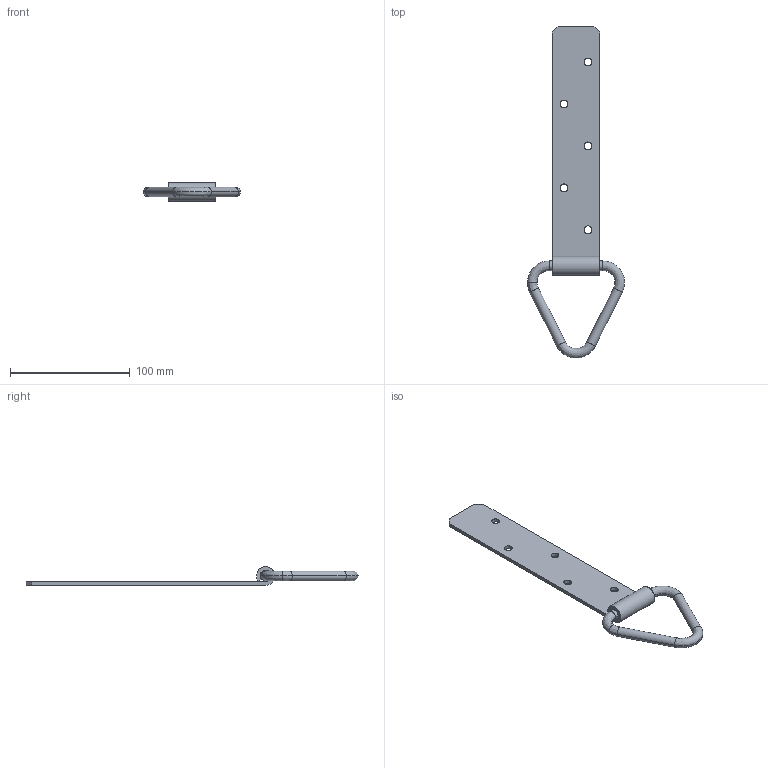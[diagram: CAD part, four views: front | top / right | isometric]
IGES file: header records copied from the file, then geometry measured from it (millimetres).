
Start section: SolidWorks IGES file using analytic representation for surfaces
Global section: file name: C:\Users\mcharife\Desktop\29882 ZI.IGS; native system: SolidWorks 2013; preprocessor: SolidWorks 2013; author: mcharife; date: 171120.102121; units: millimetre
Bounding box: 80.98 x 276.93 x 15.5 mm (x, y, z)
Surface area: 26178.2 mm2 (no closed solid volume)
Topology: 0 solids, 0 shells, 38 faces, 660 edges, 660 vertices
Faces by surface type: revolution 20, bspline 18
